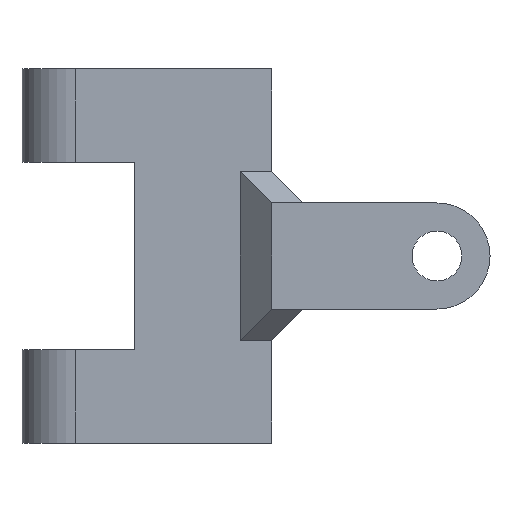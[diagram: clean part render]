
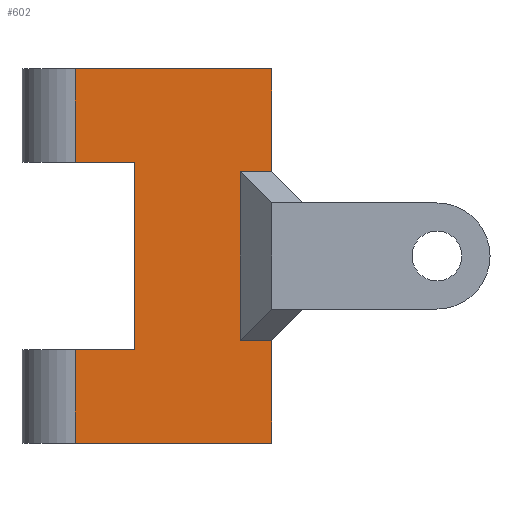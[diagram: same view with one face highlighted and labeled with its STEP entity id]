
A CAD part, front view. The second image highlights one B-rep face of the part: STEP entity #602.
In plain terms, the highlighted planar face has unit normal (0, -1, 0).
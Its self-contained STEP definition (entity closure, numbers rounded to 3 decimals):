
#52=FACE_OUTER_BOUND('',#86,.T.);
#86=EDGE_LOOP('',(#411,#412,#413,#414,#415,#416,#417,#418,#419,#420,#421,
#422));
#132=LINE('',#863,#200);
#135=LINE('',#869,#203);
#136=LINE('',#871,#204);
#137=LINE('',#873,#205);
#138=LINE('',#875,#206);
#139=LINE('',#877,#207);
#140=LINE('',#879,#208);
#141=LINE('',#881,#209);
#142=LINE('',#883,#210);
#143=LINE('',#885,#211);
#144=LINE('',#887,#212);
#145=LINE('',#888,#213);
#200=VECTOR('',#692,10.);
#203=VECTOR('',#697,10.);
#204=VECTOR('',#698,10.);
#205=VECTOR('',#699,10.);
#206=VECTOR('',#700,10.);
#207=VECTOR('',#701,10.);
#208=VECTOR('',#702,10.);
#209=VECTOR('',#703,10.);
#210=VECTOR('',#704,10.);
#211=VECTOR('',#705,10.);
#212=VECTOR('',#706,10.);
#213=VECTOR('',#707,10.);
#268=VERTEX_POINT('',#860);
#269=VERTEX_POINT('',#862);
#271=VERTEX_POINT('',#868);
#272=VERTEX_POINT('',#870);
#273=VERTEX_POINT('',#872);
#274=VERTEX_POINT('',#874);
#275=VERTEX_POINT('',#876);
#276=VERTEX_POINT('',#878);
#277=VERTEX_POINT('',#880);
#278=VERTEX_POINT('',#882);
#279=VERTEX_POINT('',#884);
#280=VERTEX_POINT('',#886);
#324=EDGE_CURVE('',#268,#269,#132,.T.);
#327=EDGE_CURVE('',#271,#268,#135,.T.);
#328=EDGE_CURVE('',#272,#271,#136,.T.);
#329=EDGE_CURVE('',#273,#272,#137,.T.);
#330=EDGE_CURVE('',#274,#273,#138,.T.);
#331=EDGE_CURVE('',#275,#274,#139,.T.);
#332=EDGE_CURVE('',#275,#276,#140,.T.);
#333=EDGE_CURVE('',#276,#277,#141,.T.);
#334=EDGE_CURVE('',#277,#278,#142,.T.);
#335=EDGE_CURVE('',#279,#278,#143,.T.);
#336=EDGE_CURVE('',#280,#279,#144,.T.);
#337=EDGE_CURVE('',#269,#280,#145,.T.);
#411=ORIENTED_EDGE('',*,*,#324,.F.);
#412=ORIENTED_EDGE('',*,*,#327,.F.);
#413=ORIENTED_EDGE('',*,*,#328,.F.);
#414=ORIENTED_EDGE('',*,*,#329,.F.);
#415=ORIENTED_EDGE('',*,*,#330,.F.);
#416=ORIENTED_EDGE('',*,*,#331,.F.);
#417=ORIENTED_EDGE('',*,*,#332,.T.);
#418=ORIENTED_EDGE('',*,*,#333,.T.);
#419=ORIENTED_EDGE('',*,*,#334,.T.);
#420=ORIENTED_EDGE('',*,*,#335,.F.);
#421=ORIENTED_EDGE('',*,*,#336,.F.);
#422=ORIENTED_EDGE('',*,*,#337,.F.);
#576=PLANE('',#638);
#602=ADVANCED_FACE('',(#52),#576,.F.);
#638=AXIS2_PLACEMENT_3D('',#867,#695,#696);
#692=DIRECTION('',(1.,0.,0.));
#695=DIRECTION('center_axis',(0.,1.,0.));
#696=DIRECTION('ref_axis',(1.,0.,0.));
#697=DIRECTION('',(0.,0.,-1.));
#698=DIRECTION('',(-1.,0.,0.));
#699=DIRECTION('',(0.,0.,-1.));
#700=DIRECTION('',(1.,0.,0.));
#701=DIRECTION('',(0.,0.,1.));
#702=DIRECTION('',(1.,0.,0.));
#703=DIRECTION('',(0.,0.,-1.));
#704=DIRECTION('',(-1.,0.,0.));
#705=DIRECTION('',(0.,0.,1.));
#706=DIRECTION('',(-1.,0.,0.));
#707=DIRECTION('',(0.,0.,-1.));
#860=CARTESIAN_POINT('',(35.,0.,-43.5));
#862=CARTESIAN_POINT('',(40.,0.,-43.5));
#863=CARTESIAN_POINT('',(30.,0.,-43.5));
#867=CARTESIAN_POINT('Origin',(20.,0.,-30.));
#868=CARTESIAN_POINT('',(35.,0.,-16.5));
#869=CARTESIAN_POINT('',(35.,0.,-30.));
#870=CARTESIAN_POINT('',(40.,0.,-16.5));
#871=CARTESIAN_POINT('',(30.,0.,-16.5));
#872=CARTESIAN_POINT('',(40.,0.,0.));
#873=CARTESIAN_POINT('',(40.,0.,0.));
#874=CARTESIAN_POINT('',(8.5,0.,0.));
#875=CARTESIAN_POINT('',(0.,0.,0.));
#876=CARTESIAN_POINT('',(8.5,0.,-15.));
#877=CARTESIAN_POINT('',(8.5,0.,-45.));
#878=CARTESIAN_POINT('',(18.,0.,-15.));
#879=CARTESIAN_POINT('',(19.,0.,-15.));
#880=CARTESIAN_POINT('',(18.,0.,-45.));
#881=CARTESIAN_POINT('',(18.,0.,-37.5));
#882=CARTESIAN_POINT('',(8.5,0.,-45.));
#883=CARTESIAN_POINT('',(10.,0.,-45.));
#884=CARTESIAN_POINT('',(8.5,0.,-60.));
#885=CARTESIAN_POINT('',(8.5,0.,-45.));
#886=CARTESIAN_POINT('',(40.,0.,-60.));
#887=CARTESIAN_POINT('',(40.,0.,-60.));
#888=CARTESIAN_POINT('',(40.,0.,0.));
